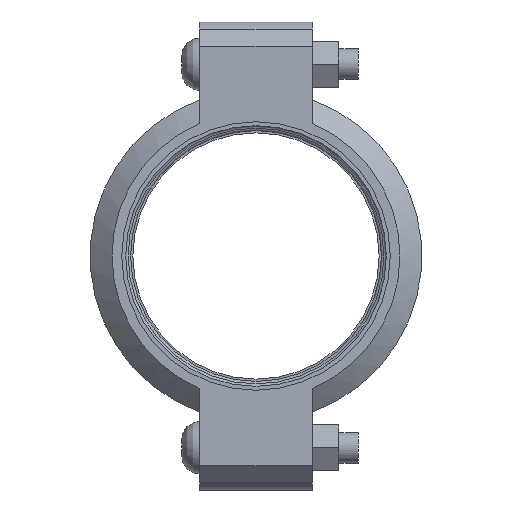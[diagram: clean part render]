
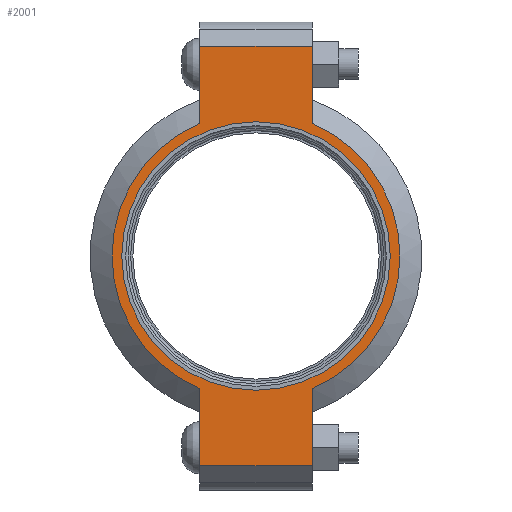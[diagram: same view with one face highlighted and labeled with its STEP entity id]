
A CAD part, left-side view. The second image highlights one B-rep face of the part: STEP entity #2001.
In plain terms, the highlighted planar face has unit normal (-1, 0, 0) as drawn and (0, 0, 1) by its records, which use the part's own axes.
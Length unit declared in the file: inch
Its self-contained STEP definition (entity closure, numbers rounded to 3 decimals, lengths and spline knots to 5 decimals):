
#134=LINE('',#3570,#233);
#142=LINE('',#3606,#241);
#149=LINE('',#3627,#248);
#158=LINE('',#3659,#257);
#159=LINE('',#3663,#258);
#160=LINE('',#3665,#259);
#233=VECTOR('',#2932,0.3937);
#241=VECTOR('',#2948,0.3937);
#248=VECTOR('',#2967,0.3937);
#257=VECTOR('',#2992,0.3937);
#258=VECTOR('',#2997,0.3937);
#259=VECTOR('',#2998,0.3937);
#319=FACE_BOUND('',#589,.T.);
#365=PLANE('',#2366);
#461=FACE_OUTER_BOUND('',#588,.T.);
#588=EDGE_LOOP('',(#1730,#1731,#1732,#1733,#1734,#1735,#1736,#1737));
#589=EDGE_LOOP('',(#1738));
#736=CIRCLE('',#2308,2.75);
#762=CIRCLE('',#2367,2.95);
#763=CIRCLE('',#2368,2.95);
#887=VERTEX_POINT('',#3386);
#930=VERTEX_POINT('',#3567);
#931=VERTEX_POINT('',#3569);
#942=VERTEX_POINT('',#3601);
#943=VERTEX_POINT('',#3605);
#950=VERTEX_POINT('',#3624);
#951=VERTEX_POINT('',#3626);
#961=VERTEX_POINT('',#3662);
#962=VERTEX_POINT('',#3664);
#1124=EDGE_CURVE('',#887,#887,#736,.T.);
#1185=EDGE_CURVE('',#931,#930,#134,.T.);
#1199=EDGE_CURVE('',#943,#942,#142,.T.);
#1209=EDGE_CURVE('',#951,#950,#149,.T.);
#1224=EDGE_CURVE('',#943,#930,#158,.T.);
#1225=EDGE_CURVE('',#942,#951,#762,.T.);
#1226=EDGE_CURVE('',#961,#950,#159,.T.);
#1227=EDGE_CURVE('',#961,#962,#160,.T.);
#1228=EDGE_CURVE('',#962,#931,#763,.T.);
#1730=ORIENTED_EDGE('',*,*,#1224,.F.);
#1731=ORIENTED_EDGE('',*,*,#1199,.T.);
#1732=ORIENTED_EDGE('',*,*,#1225,.T.);
#1733=ORIENTED_EDGE('',*,*,#1209,.T.);
#1734=ORIENTED_EDGE('',*,*,#1226,.F.);
#1735=ORIENTED_EDGE('',*,*,#1227,.T.);
#1736=ORIENTED_EDGE('',*,*,#1228,.T.);
#1737=ORIENTED_EDGE('',*,*,#1185,.T.);
#1738=ORIENTED_EDGE('',*,*,#1124,.T.);
#2001=ADVANCED_FACE('',(#461,#319),#365,.T.);
#2308=AXIS2_PLACEMENT_3D('',#3388,#2808,#2809);
#2366=AXIS2_PLACEMENT_3D('',#3660,#2993,#2994);
#2367=AXIS2_PLACEMENT_3D('',#3661,#2995,#2996);
#2368=AXIS2_PLACEMENT_3D('',#3666,#2999,#3000);
#2808=DIRECTION('center_axis',(0.,0.,-1.));
#2809=DIRECTION('ref_axis',(1.,0.,0.));
#2932=DIRECTION('',(1.,0.,0.));
#2948=DIRECTION('',(-1.,0.,0.));
#2967=DIRECTION('',(-1.,0.,0.));
#2992=DIRECTION('',(0.,-1.,0.));
#2993=DIRECTION('center_axis',(0.,0.,1.));
#2994=DIRECTION('ref_axis',(-1.,0.,0.));
#2995=DIRECTION('center_axis',(0.,0.,1.));
#2996=DIRECTION('ref_axis',(1.,0.,0.));
#2997=DIRECTION('',(0.,1.,0.));
#2998=DIRECTION('',(1.,0.,0.));
#2999=DIRECTION('center_axis',(0.,0.,1.));
#3000=DIRECTION('ref_axis',(1.,0.,0.));
#3386=CARTESIAN_POINT('',(-2.75,0.,1.065));
#3388=CARTESIAN_POINT('Origin',(0.,0.,1.065));
#3567=CARTESIAN_POINT('',(4.295,-1.15,1.065));
#3569=CARTESIAN_POINT('',(2.71662,-1.15,1.065));
#3570=CARTESIAN_POINT('',(4.795,-1.15,1.065));
#3601=CARTESIAN_POINT('',(2.71662,1.15,1.065));
#3605=CARTESIAN_POINT('',(4.295,1.15,1.065));
#3606=CARTESIAN_POINT('',(-4.795,1.15,1.065));
#3624=CARTESIAN_POINT('',(-4.295,1.15,1.065));
#3626=CARTESIAN_POINT('',(-2.71662,1.15,1.065));
#3627=CARTESIAN_POINT('',(-4.795,1.15,1.065));
#3659=CARTESIAN_POINT('',(4.295,-0.575,1.065));
#3660=CARTESIAN_POINT('Origin',(0.,0.,
1.065));
#3661=CARTESIAN_POINT('Origin',(0.,0.,1.065));
#3662=CARTESIAN_POINT('',(-4.295,-1.15,1.065));
#3663=CARTESIAN_POINT('',(-4.295,0.575,1.065));
#3664=CARTESIAN_POINT('',(-2.71662,-1.15,1.065));
#3665=CARTESIAN_POINT('',(4.795,-1.15,1.065));
#3666=CARTESIAN_POINT('Origin',(0.,0.,1.065));
